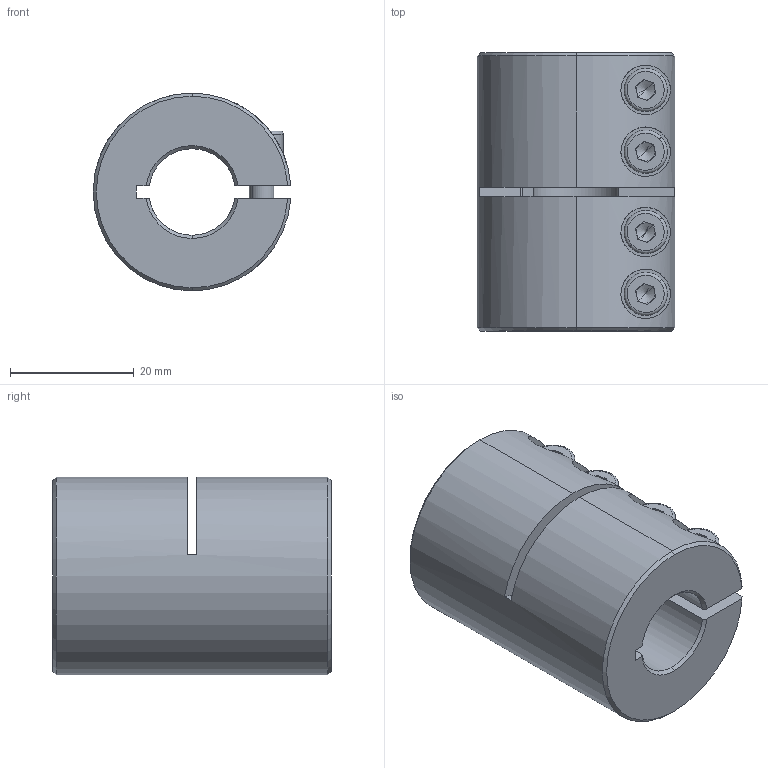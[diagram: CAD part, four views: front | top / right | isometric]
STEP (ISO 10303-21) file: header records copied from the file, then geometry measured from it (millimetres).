
FILE_DESCRIPTION (( 'STEP AP214' ), '1' );
FILE_NAME ('LL-B-D32L45-14-14½¨Ä£.STEP', '2022-07-21T07:12:36', ( '' ), ( '' ), 'SwSTEP 2.0', 'SolidWorks 2022', '' );
FILE_SCHEMA (( 'AUTOMOTIVE_DESIGN' ));
Length unit declared in the file: millimetre
Products named in the file (1): LL-B-D32L45-14-14膘耀
Bounding box: 31.97 x 45 x 32 mm (x, y, z)
Volume: 27083.5 mm3; surface area: 10736.6 mm2
Topology: 1 solids, 1 shells, 188 faces, 477 edges, 299 vertices
Faces by surface type: plane 86, cylinder 74, cone 20, torus 8
Entity records: 6186 total; most frequent: CARTESIAN_POINT 1553, DIRECTION 1006, ORIENTED_EDGE 938, EDGE_CURVE 469, AXIS2_PLACEMENT_3D 392, VERTEX_POINT 299, LINE 222, VECTOR 222
